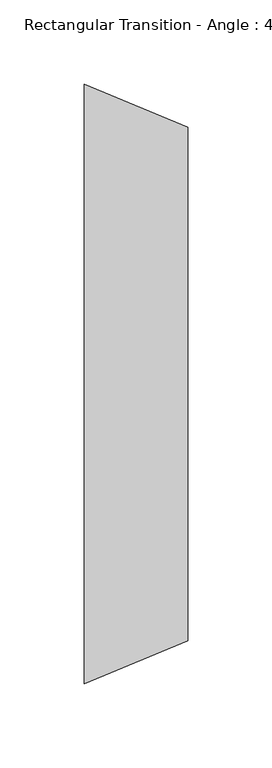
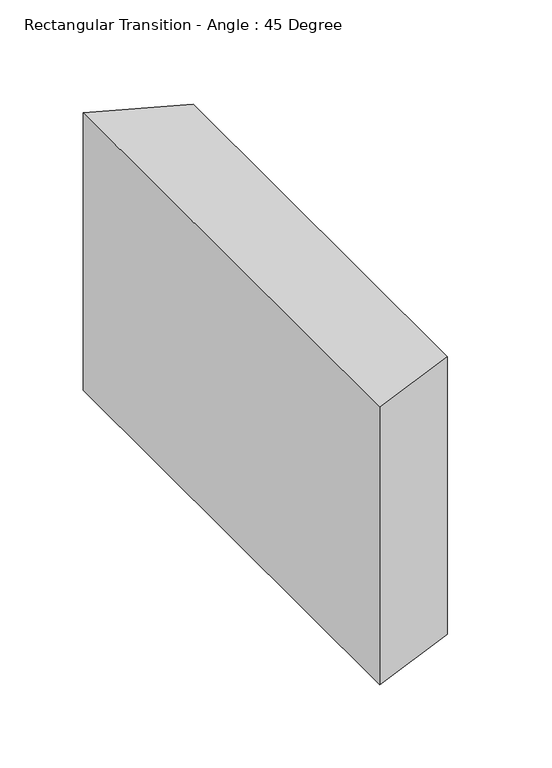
"""IFC4 building model written with IfcOpenShell, lengths in millimetres: duct fitting geometry, Rectangular Transition - Angle : 45 Degree."""

from ifc_helpers import new_model, si_unit, frame, origin, place, context, project, spatial, polyline, outline, extrude, source, transform, mapped, element, save


def rectangular_transition_angle_45_degree_a1440fe9(model_context):
    return source(origin(), model_context, "Body", "SweptSolid", [
        extrude(outline(polyline([(0.0, -177.8), (0.0, 177.8), (61.3210245, 152.4), (61.3210245, -152.4), (0.0, -177.8)])), frame((0.0, 0.0, -101.6), z_axis=(0.0, 0.0, 1.0), x_axis=(1.0, 0.0, 0.0)), (0.0, 0.0, 1.0), 203.2),
    ])


if __name__ == "__main__":
    model = new_model("IFC4")
    model_context = context("Model", 3, world=origin())
    ifc_project = project(units=[si_unit("LENGTHUNIT", "METRE", prefix="MILLI")], contexts=[model_context])
    site = spatial("IfcSite", under=ifc_project)
    building = spatial("IfcBuilding", under=site)
    placement = place(None, origin())
    rectangular_transition_angle_45_degree_shape = rectangular_transition_angle_45_degree_a1440fe9(model_context)
    element("IfcDuctFitting", 1, ObjectType="Rectangular Transition - Angle : 45 Degree", at=placement, inside=building, context=model_context, shape_type="MappedRepresentation", body=[
        mapped(rectangular_transition_angle_45_degree_shape, transform((0.0, 0.0, 0.0), x_axis=(1.0, 0.0, 0.0), y_axis=(0.0, 1.0, 0.0), z_axis=(0.0, 0.0, 1.0))),
    ])
    save(model, "model.ifc")
